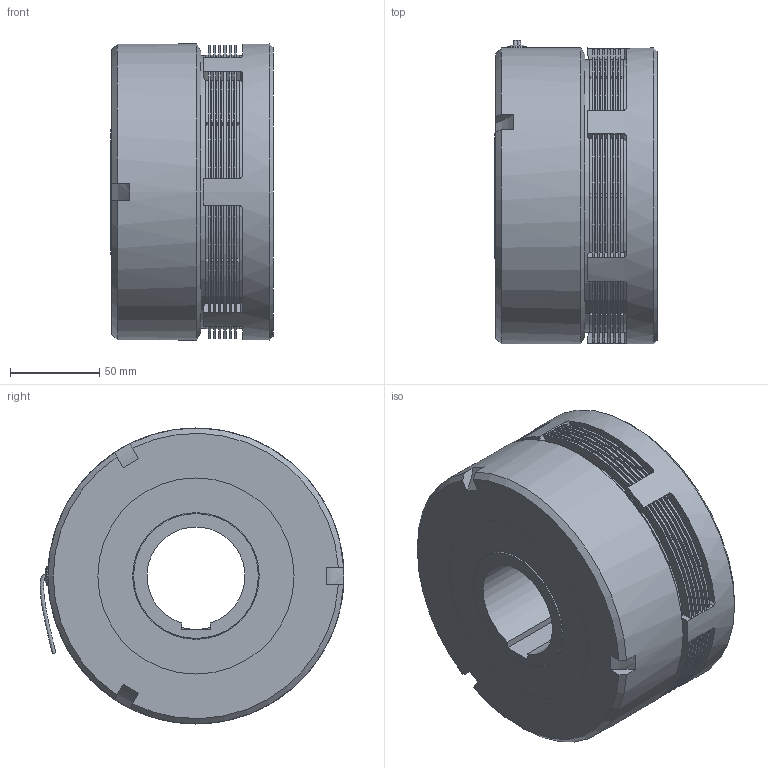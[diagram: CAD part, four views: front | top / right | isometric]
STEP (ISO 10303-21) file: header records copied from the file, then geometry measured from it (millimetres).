
FILE_DESCRIPTION(/* description */ ('','CAx-IF Rec.Pracs.---Representation and Presentation of Product Manufacturing Information (PMI)---4.0---2014-10-13'),/* implementation_level */ '2;1');
FILE_NAME(/* name */ 'X:\INVENTOR\DISEGNI\05_Friz_Elettmag-Lam\05_05 ESB_S\05_05_167_01 ESB167_S\05_04_167_01 ESB167_S@STEP.stp',/* time_stamp */ '2018-10-05T16:44:42+02:00',/* author */ ('stefano'),/* organization */ (''),/* preprocessor_version */ 'ST-DEVELOPER v17',/* originating_system */ 'Autodesk Inventor 2018',/* authorisation */ '');
FILE_SCHEMA (('AP242_MANAGED_MODEL_BASED_3D_ENGINEERING_MIM_LF { 1 0 10303 442 1 1 4 }'));
Products named in the file (1): 05_04_167_01 ESB167_S_Substitute_1
Bounding box: 91 x 170.44 x 166 mm (x, y, z)
Volume: 1355220.6 mm3; surface area: 566371.1 mm2
Topology: 29 solids, 29 shells, 2677 faces, 7907 edges, 5270 vertices
Faces by surface type: cylinder 2141, plane 476, torus 30, cone 15, sphere 12, bspline 3
Full cylindrical faces by diameter (mm): 3 x2, 3.5 x2, 4 x1, 11 x1, 60 x1, 67 x1, 70 x3, 71 x1, 83.04 x2, 91 x1, 96.96 x2, 97.6 x1, 98 x1, 102 x1, 110 x3, 112 x1, 113 x1, 114 x1, 124 x1, 131 x1, 150 x1, 152.6 x1, 153 x2, 154 x1, 166 x2
Entity records: 95572 total; most frequent: DIRECTION 17951, CARTESIAN_POINT 16366, ORIENTED_EDGE 15820, EDGE_CURVE 7910, AXIS2_PLACEMENT_3D 7399, VERTEX_POINT 5318, CIRCLE 4700, LINE 3153
